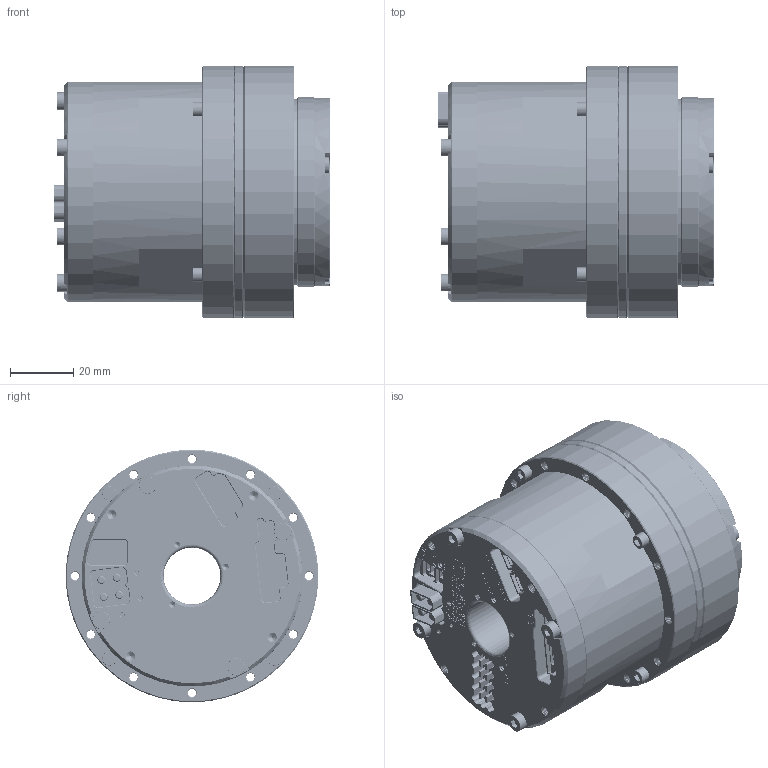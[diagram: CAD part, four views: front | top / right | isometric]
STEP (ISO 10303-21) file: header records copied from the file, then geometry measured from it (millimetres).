
FILE_DESCRIPTION (( 'STEP AP203' ), '1' );
FILE_NAME ('eRob80H｡ﾁ｡ﾁI-XX-18EX_V5_MC2C.EX.XX.step', '2024-04-11T01:21:19', ( 'Windows User' ), ( 'P R C' ), 'SwSTEP 2.0', 'SolidWorks 2021', '' );
FILE_SCHEMA (( 'CONFIG_CONTROL_DESIGN' ));
Length unit declared in the file: millimetre
Products named in the file (1): eRob80H××I-XX-18EX_V5_MC2C.EX.XX
Bounding box: 87.6 x 80 x 80 mm (x, y, z)
Volume: 315035.6 mm3; surface area: 47031.8 mm2
Topology: 1 solids, 1 shells, 4905 faces, 13491 edges, 8847 vertices
Faces by surface type: plane 2339, cylinder 1907, bspline 499, cone 124, torus 36
Entity records: 388457 total; most frequent: CARTESIAN_POINT 274651, ORIENTED_EDGE 26890, DIRECTION 19693, EDGE_CURVE 13445, VERTEX_POINT 8847, LINE 8191, VECTOR 8191, AXIS2_PLACEMENT_3D 5751
